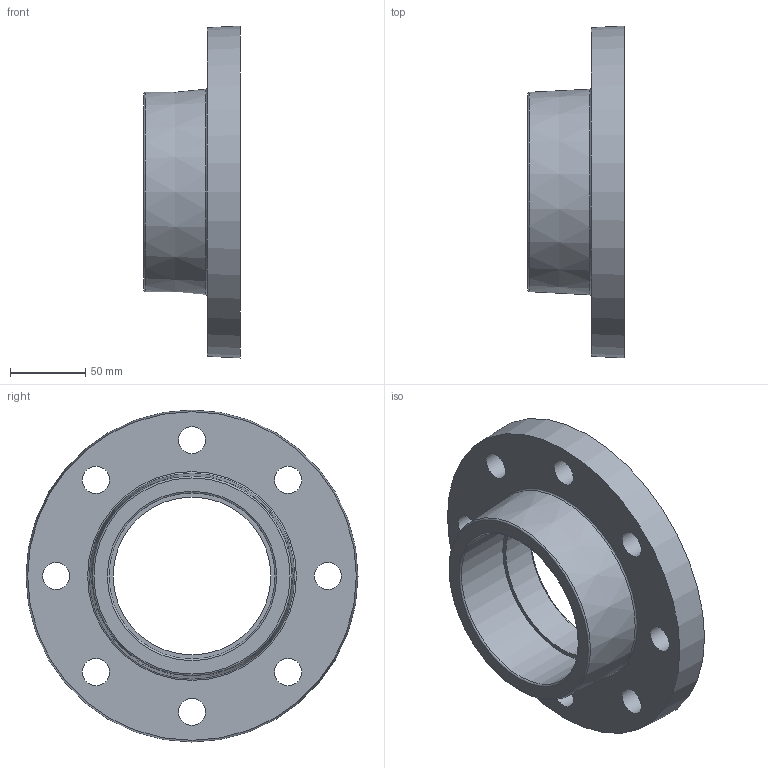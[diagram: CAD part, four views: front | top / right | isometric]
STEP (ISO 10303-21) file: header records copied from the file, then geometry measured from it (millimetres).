
FILE_DESCRIPTION(/* description */ ('PLASSON THR. FIXED FLANGE PVC 4"'),/* implementation_level */ '2;1');
FILE_NAME(/* name */ 'C:\Dropbox\KIMPROJECTS-Inventor\99-16-3568-Processing\PVC Catalog 2017\059201\059201040.ipt.stp',/* time_stamp */ '2017-12-07T16:07:35+02:00',/* author */ ('KIM'),/* organization */ (''),/* preprocessor_version */ 'ST-DEVELOPER v15.6',/* originating_system */ 'Autodesk Inventor 2015',/* authorisation */ '');
FILE_SCHEMA (('AUTOMOTIVE_DESIGN { 1 0 10303 214 3 1 1 }'));
Length unit declared in the file: millimetre
Products named in the file (1): 059201040
Bounding box: 64 x 220 x 220 mm (x, y, z)
Volume: 789740.9 mm3; surface area: 117959.7 mm2
Topology: 1 solids, 1 shells, 32 faces, 62 edges, 40 vertices
Faces by surface type: cylinder 16, plane 10, torus 4, cone 2
Full cylindrical faces by diameter (mm): 18 x8, 104.568 x1, 108.97 x1, 110.072 x1, 111.17 x1, 113.37 x1, 115.57 x1, 117.77 x1, 119.97 x1
Entity records: 784 total; most frequent: DIRECTION 146, CARTESIAN_POINT 113, EDGE_LOOP 80, ORIENTED_EDGE 80, AXIS2_PLACEMENT_3D 73, FACE_BOUND 48, CIRCLE 40, VERTEX_POINT 40
